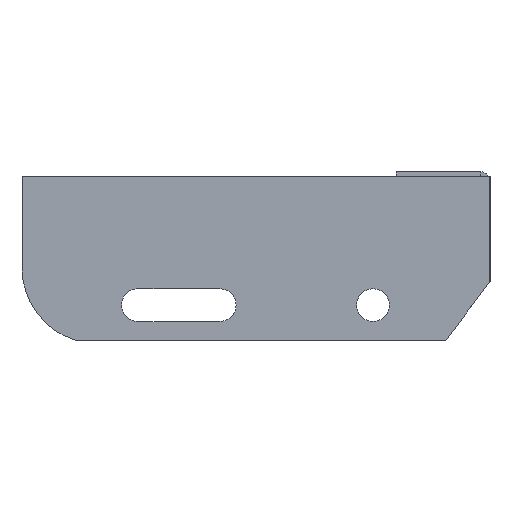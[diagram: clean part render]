
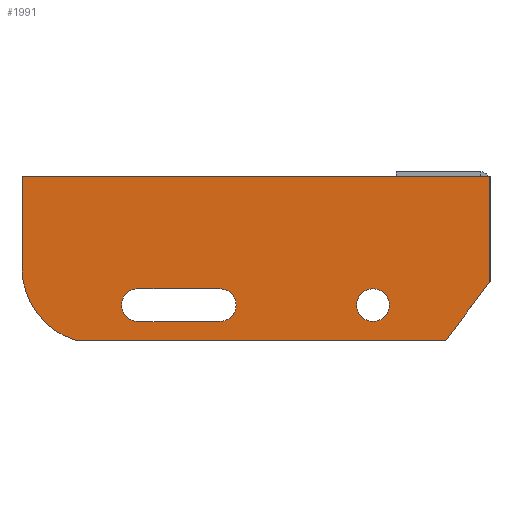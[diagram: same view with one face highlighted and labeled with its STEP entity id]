
A CAD part, left-side view. The second image highlights one B-rep face of the part: STEP entity #1991.
In plain terms, the highlighted planar face has unit normal (-1, 0, 0) as drawn and (0, 0, 1) by its records, which use the part's own axes.
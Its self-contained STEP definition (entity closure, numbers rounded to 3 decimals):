
#9 = VECTOR ( 'NONE', #241, 1000. ) ;
#14 = VERTEX_POINT ( 'NONE', #1069 ) ;
#21 = EDGE_CURVE ( 'NONE', #191, #1982, #1442, .T. ) ;
#22 = VECTOR ( 'NONE', #1242, 1000. ) ;
#46 = CIRCLE ( 'NONE', #1978, 32.5 ) ;
#52 = DIRECTION ( 'NONE',  ( 0., 0., 1. ) ) ;
#53 = VERTEX_POINT ( 'NONE', #1537 ) ;
#61 = PLANE ( 'NONE',  #895 ) ;
#66 = CARTESIAN_POINT ( 'NONE',  ( 0., -45., 3. ) ) ;
#110 = VECTOR ( 'NONE', #939, 1000. ) ;
#132 = LINE ( 'NONE', #772, #1015 ) ;
#164 = CARTESIAN_POINT ( 'NONE',  ( -50., -55., 3. ) ) ;
#191 = VERTEX_POINT ( 'NONE', #1719 ) ;
#236 = CARTESIAN_POINT ( 'NONE',  ( -115.5, -48., 3. ) ) ;
#241 = DIRECTION ( 'NONE',  ( 1., 0., 0. ) ) ;
#254 = CARTESIAN_POINT ( 'NONE',  ( -150.5, -55., 3. ) ) ;
#277 = DIRECTION ( 'NONE',  ( 0., 0., 1. ) ) ;
#285 = DIRECTION ( 'NONE',  ( 1., 0., 0. ) ) ;
#288 = VERTEX_POINT ( 'NONE', #1793 ) ;
#318 = CIRCLE ( 'NONE', #847, 7. ) ;
#387 = ORIENTED_EDGE ( 'NONE', *, *, #1229, .F. ) ;
#394 = CARTESIAN_POINT ( 'NONE',  ( -167.5, -39., 3. ) ) ;
#405 = DIRECTION ( 'NONE',  ( 1., 0., 0. ) ) ;
#411 = EDGE_LOOP ( 'NONE', ( #892, #1167, #1530, #790, #1001 ) ) ;
#443 = CARTESIAN_POINT ( 'NONE',  ( -200., -39., 3. ) ) ;
#445 = CARTESIAN_POINT ( 'NONE',  ( -18.839, -70., 3. ) ) ;
#461 = DIRECTION ( 'NONE',  ( 1., 0., 0. ) ) ;
#518 = VERTEX_POINT ( 'NONE', #1831 ) ;
#523 = DIRECTION ( 'NONE',  ( 0., 0., 1. ) ) ;
#526 = EDGE_CURVE ( 'NONE', #14, #191, #1977, .T. ) ;
#537 = VECTOR ( 'NONE', #1948, 1000. ) ;
#549 = EDGE_CURVE ( 'NONE', #53, #1835, #1067, .T. ) ;
#568 = VECTOR ( 'NONE', #1995, 1000. ) ;
#620 = LINE ( 'NONE', #1416, #22 ) ;
#633 = LINE ( 'NONE', #1275, #110 ) ;
#636 = DIRECTION ( 'NONE',  ( 1., 0., 0. ) ) ;
#674 = DIRECTION ( 'NONE',  ( 1., 0., 0. ) ) ;
#680 = LINE ( 'NONE', #1637, #9 ) ;
#689 = DIRECTION ( 'NONE',  ( 1., 0., 0. ) ) ;
#736 = CIRCLE ( 'NONE', #1880, 7. ) ;
#753 = CARTESIAN_POINT ( 'NONE',  ( -177.26, -70., 3. ) ) ;
#761 = VERTEX_POINT ( 'NONE', #236 ) ;
#772 = CARTESIAN_POINT ( 'NONE',  ( -200., 0., 3. ) ) ;
#783 = ORIENTED_EDGE ( 'NONE', *, *, #549, .T. ) ;
#790 = ORIENTED_EDGE ( 'NONE', *, *, #1751, .F. ) ;
#791 = CARTESIAN_POINT ( 'NONE',  ( 0., 0., 3. ) ) ;
#824 = ORIENTED_EDGE ( 'NONE', *, *, #1584, .T. ) ;
#845 = VERTEX_POINT ( 'NONE', #1161 ) ;
#847 = AXIS2_PLACEMENT_3D ( 'NONE', #2022, #1889, #636 ) ;
#890 = EDGE_CURVE ( 'NONE', #992, #53, #1464, .T. ) ;
#892 = ORIENTED_EDGE ( 'NONE', *, *, #2000, .F. ) ;
#894 = ORIENTED_EDGE ( 'NONE', *, *, #1245, .T. ) ;
#895 = AXIS2_PLACEMENT_3D ( 'NONE', #394, #52, #405 ) ;
#939 = DIRECTION ( 'NONE',  ( 1., 0., 0. ) ) ;
#953 = ORIENTED_EDGE ( 'NONE', *, *, #1829, .T. ) ;
#992 = VERTEX_POINT ( 'NONE', #445 ) ;
#998 = CARTESIAN_POINT ( 'NONE',  ( -115.5, -55., 3. ) ) ;
#1001 = ORIENTED_EDGE ( 'NONE', *, *, #2011, .F. ) ;
#1012 = VECTOR ( 'NONE', #1109, 1000. ) ;
#1015 = VECTOR ( 'NONE', #1983, 1000. ) ;
#1046 = EDGE_LOOP ( 'NONE', ( #387, #1952 ) ) ;
#1058 = CARTESIAN_POINT ( 'NONE',  ( -150.5, -55., 3. ) ) ;
#1062 = AXIS2_PLACEMENT_3D ( 'NONE', #254, #1687, #285 ) ;
#1067 = LINE ( 'NONE', #1359, #568 ) ;
#1069 = CARTESIAN_POINT ( 'NONE',  ( -150.5, -48., 3. ) ) ;
#1071 = VERTEX_POINT ( 'NONE', #753 ) ;
#1109 = DIRECTION ( 'NONE',  ( -1., 0., 0. ) ) ;
#1161 = CARTESIAN_POINT ( 'NONE',  ( -57., -55., 3. ) ) ;
#1167 = ORIENTED_EDGE ( 'NONE', *, *, #21, .F. ) ;
#1218 = EDGE_CURVE ( 'NONE', #1571, #845, #1660, .T. ) ;
#1229 = EDGE_CURVE ( 'NONE', #845, #1571, #318, .T. ) ;
#1242 = DIRECTION ( 'NONE',  ( -1., 0., 0. ) ) ;
#1245 = EDGE_CURVE ( 'NONE', #1835, #288, #1583, .T. ) ;
#1248 = AXIS2_PLACEMENT_3D ( 'NONE', #1058, #277, #1369 ) ;
#1252 = CARTESIAN_POINT ( 'NONE',  ( 0., 0., 3. ) ) ;
#1275 = CARTESIAN_POINT ( 'NONE',  ( -18.839, -70., 3. ) ) ;
#1286 = CARTESIAN_POINT ( 'NONE',  ( -150.5, -62., 3. ) ) ;
#1359 = CARTESIAN_POINT ( 'NONE',  ( 0., 0., 3. ) ) ;
#1360 = ORIENTED_EDGE ( 'NONE', *, *, #890, .T. ) ;
#1369 = DIRECTION ( 'NONE',  ( 1., 0., 0. ) ) ;
#1416 = CARTESIAN_POINT ( 'NONE',  ( -150.5, -48., 3. ) ) ;
#1442 = CIRCLE ( 'NONE', #1062, 7. ) ;
#1451 = FACE_BOUND ( 'NONE', #1046, .T. ) ;
#1464 = LINE ( 'NONE', #66, #537 ) ;
#1530 = ORIENTED_EDGE ( 'NONE', *, *, #526, .F. ) ;
#1537 = CARTESIAN_POINT ( 'NONE',  ( 0., -45., 3. ) ) ;
#1548 = DIRECTION ( 'NONE',  ( 0., 0., 1. ) ) ;
#1571 = VERTEX_POINT ( 'NONE', #1833 ) ;
#1583 = LINE ( 'NONE', #791, #1012 ) ;
#1584 = EDGE_CURVE ( 'NONE', #288, #1743, #132, .T. ) ;
#1585 = EDGE_LOOP ( 'NONE', ( #783, #894, #824, #953, #1730, #1360 ) ) ;
#1637 = CARTESIAN_POINT ( 'NONE',  ( -150.5, -62., 3. ) ) ;
#1660 = CIRCLE ( 'NONE', #1794, 7. ) ;
#1687 = DIRECTION ( 'NONE',  ( 0., 0., 1. ) ) ;
#1719 = CARTESIAN_POINT ( 'NONE',  ( -157.5, -55., 3. ) ) ;
#1730 = ORIENTED_EDGE ( 'NONE', *, *, #1902, .T. ) ;
#1743 = VERTEX_POINT ( 'NONE', #443 ) ;
#1751 = EDGE_CURVE ( 'NONE', #761, #14, #620, .T. ) ;
#1793 = CARTESIAN_POINT ( 'NONE',  ( -200., 0., 3. ) ) ;
#1794 = AXIS2_PLACEMENT_3D ( 'NONE', #164, #1924, #674 ) ;
#1829 = EDGE_CURVE ( 'NONE', #1743, #1071, #46, .T. ) ;
#1831 = CARTESIAN_POINT ( 'NONE',  ( -115.5, -62., 3. ) ) ;
#1833 = CARTESIAN_POINT ( 'NONE',  ( -43., -55., 3. ) ) ;
#1835 = VERTEX_POINT ( 'NONE', #1252 ) ;
#1864 = CARTESIAN_POINT ( 'NONE',  ( -167.5, -39., 3. ) ) ;
#1880 = AXIS2_PLACEMENT_3D ( 'NONE', #998, #523, #689 ) ;
#1889 = DIRECTION ( 'NONE',  ( 0., 0., 1. ) ) ;
#1902 = EDGE_CURVE ( 'NONE', #1071, #992, #633, .T. ) ;
#1921 = FACE_OUTER_BOUND ( 'NONE', #1585, .T. ) ;
#1924 = DIRECTION ( 'NONE',  ( 0., 0., 1. ) ) ;
#1941 = FACE_BOUND ( 'NONE', #411, .T. ) ;
#1948 = DIRECTION ( 'NONE',  ( 0.602, 0.799, 0. ) ) ;
#1952 = ORIENTED_EDGE ( 'NONE', *, *, #1218, .F. ) ;
#1977 = CIRCLE ( 'NONE', #1248, 7. ) ;
#1978 = AXIS2_PLACEMENT_3D ( 'NONE', #1864, #1548, #461 ) ;
#1982 = VERTEX_POINT ( 'NONE', #1286 ) ;
#1983 = DIRECTION ( 'NONE',  ( 0., -1., 0. ) ) ;
#1991 = ADVANCED_FACE ( 'NONE', ( #1921, #1451, #1941 ), #61, .T. ) ;
#1995 = DIRECTION ( 'NONE',  ( 0., 1., 0. ) ) ;
#2000 = EDGE_CURVE ( 'NONE', #1982, #518, #680, .T. ) ;
#2011 = EDGE_CURVE ( 'NONE', #518, #761, #736, .T. ) ;
#2022 = CARTESIAN_POINT ( 'NONE',  ( -50., -55., 3. ) ) ;
